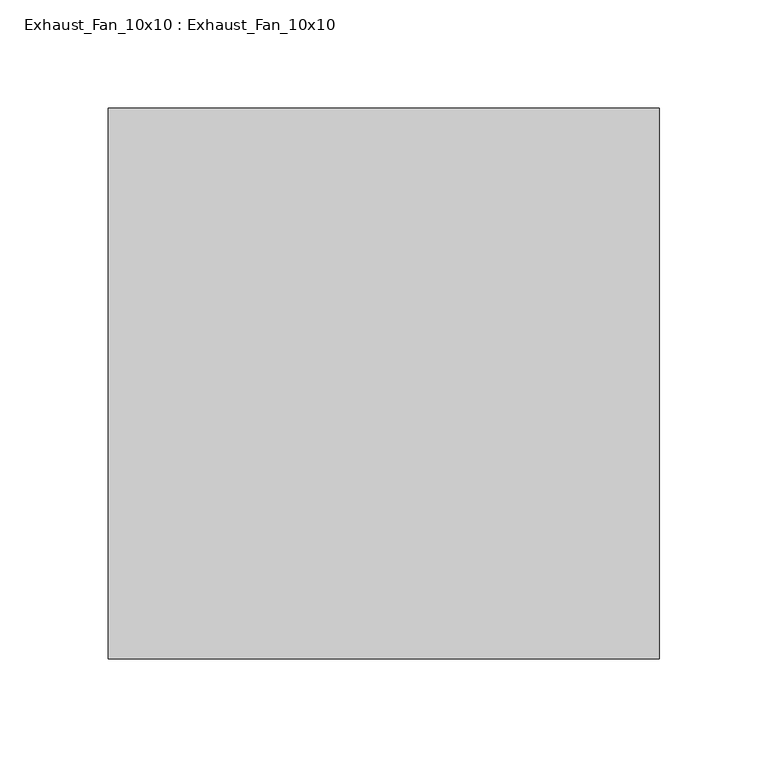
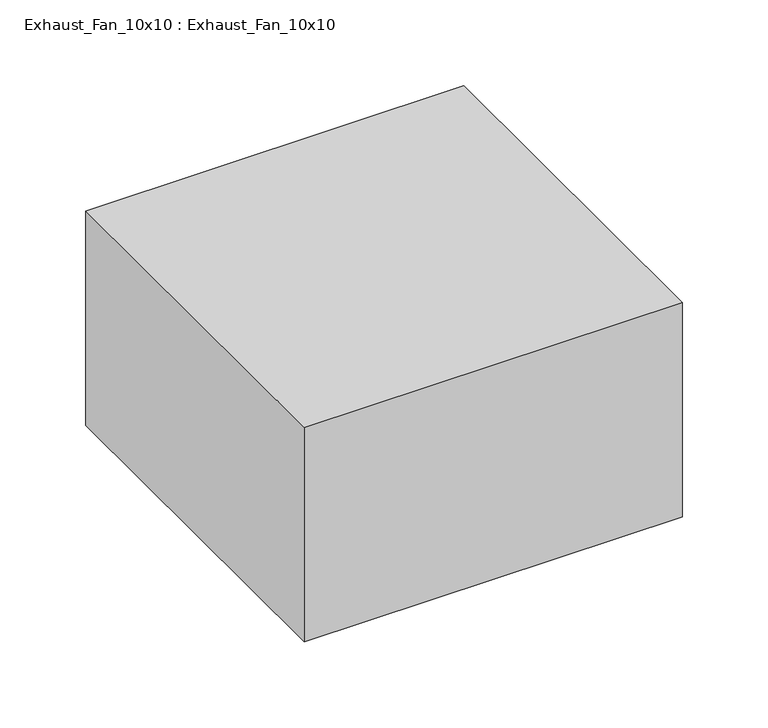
"""IFC4 building model written with IfcOpenShell, lengths in millimetres: proxy geometry, Exhaust_Fan_10x10 : Exhaust_Fan_10x10."""

from ifc_helpers import new_model, si_unit, origin, origin_with_axes, place, context, project, spatial, polyline, outline, extrude, source, transform, mapped, element, save


def exhaust_fan_10x10_exhaust_fan_10x10_ccd1523a(model_context):
    return source(origin(), model_context, "Body", "SweptSolid", [
        extrude(outline(polyline([(127.0, 127.0), (127.0, -127.0), (-127.0, -127.0), (-127.0, 127.0), (127.0, 127.0)])), origin_with_axes(), (0.0, 0.0, 1.0), 152.4),
    ])


if __name__ == "__main__":
    model = new_model("IFC4")
    model_context = context("Model", 3, world=origin())
    ifc_project = project(units=[si_unit("LENGTHUNIT", "METRE", prefix="MILLI")], contexts=[model_context])
    site = spatial("IfcSite", under=ifc_project)
    building = spatial("IfcBuilding", under=site)
    placement = place(None, origin())
    exhaust_fan_10x10_exhaust_fan_10x10_shape = exhaust_fan_10x10_exhaust_fan_10x10_ccd1523a(model_context)
    element("IfcBuildingElementProxy", 1, Name="Exhaust_Fan_10x10 : Exhaust_Fan_10x10", ObjectType="Exhaust_Fan_10x10 : Exhaust_Fan_10x10", at=placement, inside=building, context=model_context, shape_type="MappedRepresentation", body=[
        mapped(exhaust_fan_10x10_exhaust_fan_10x10_shape, transform((0.0, 0.0, 0.0), x_axis=(1.0, 0.0, 0.0), y_axis=(0.0, 1.0, 0.0), z_axis=(0.0, 0.0, 1.0))),
    ])
    save(model, "model.ifc")
